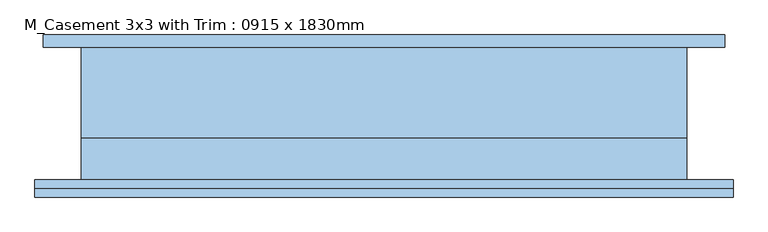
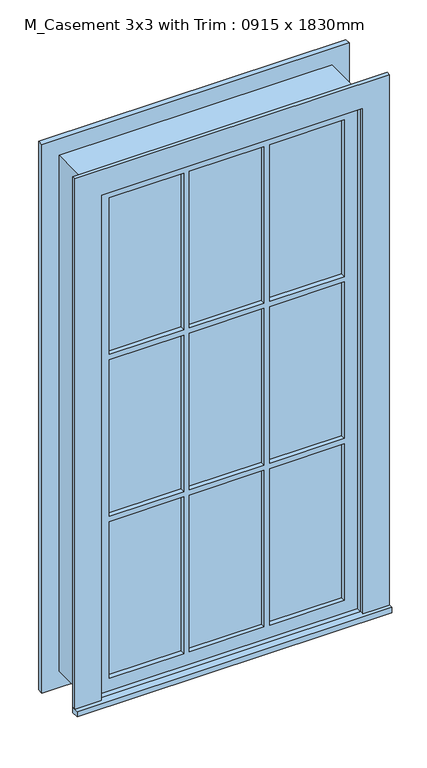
"""IFC4 building model written with IfcOpenShell, lengths in millimetres: window geometry, M_Casement 3x3 with Trim : 0915 x 1830mm."""

from ifc_helpers import new_model, si_unit, frame, origin, place, context, project, spatial, polyline, outline, extrude, source, transform, mapped, element, save


def m_casement_3x3_with_trim_0915_x_1830mm_588b5be8(model_context):
    return source(origin(), model_context, "Body", "SweptSolid", [
        extrude(outline(polyline([(-527.45, -125.7), (-527.45, -100.0), (527.45, -100.0), (527.45, -125.7), (-527.45, -125.7)])), frame((0.0, 0.0, 305.0), z_axis=(0.0, 0.0, 1.0), x_axis=(1.0, 0.0, 0.0)), (0.0, 0.0, 1.0), 19.05),
        extrude(outline(polyline([(2115.95, -438.45), (2115.95, 438.45), (324.05, 438.45), (324.05, 527.45), (2204.95, 527.45), (2204.95, -527.45), (324.05, -527.45), (324.05, -438.45), (2115.95, -438.45)])), frame((0.0, -113.0, 0.0), z_axis=(0.0, 1.0, 0.0), x_axis=(0.0, 0.0, 1.0)), (0.0, 0.0, 1.0), 13.0),
        extrude(outline(polyline([(144.0333333, -65.125), (144.0333333, -52.425), (394.0, -52.425), (394.0, -65.125), (144.0333333, -65.125)])), frame((0.0, 0.0, 1516.5333333), z_axis=(0.0, 0.0, 1.0), x_axis=(1.0, 0.0, 0.0)), (0.0, 0.0, 1.0), 554.9666667),
        extrude(outline(polyline([(-124.9833333, -65.125), (-124.9833333, -52.425), (124.9833333, -52.425), (124.9833333, -65.125), (-124.9833333, -65.125)])), frame((0.0, 0.0, 1516.5333333), z_axis=(0.0, 0.0, 1.0), x_axis=(1.0, 0.0, 0.0)), (0.0, 0.0, 1.0), 554.9666667),
        extrude(outline(polyline([(-394.0, -65.125), (-394.0, -52.425), (-144.0333333, -52.425), (-144.0333333, -65.125), (-394.0, -65.125)])), frame((0.0, 0.0, 1516.5333333), z_axis=(0.0, 0.0, 1.0), x_axis=(1.0, 0.0, 0.0)), (0.0, 0.0, 1.0), 554.9666667),
        extrude(outline(polyline([(-394.0, -65.125), (-394.0, -52.425), (-144.0333333, -52.425), (-144.0333333, -65.125), (-394.0, -65.125)])), frame((0.0, 0.0, 942.5166667), z_axis=(0.0, 0.0, 1.0), x_axis=(1.0, 0.0, 0.0)), (0.0, 0.0, 1.0), 554.9666667),
        extrude(outline(polyline([(-124.9833333, -65.125), (-124.9833333, -52.425), (124.9833333, -52.425), (124.9833333, -65.125), (-124.9833333, -65.125)])), frame((0.0, 0.0, 942.5166667), z_axis=(0.0, 0.0, 1.0), x_axis=(1.0, 0.0, 0.0)), (0.0, 0.0, 1.0), 554.9666667),
        extrude(outline(polyline([(144.0333333, -65.125), (144.0333333, -52.425), (394.0, -52.425), (394.0, -65.125), (144.0333333, -65.125)])), frame((0.0, 0.0, 942.5166667), z_axis=(0.0, 0.0, 1.0), x_axis=(1.0, 0.0, 0.0)), (0.0, 0.0, 1.0), 554.9666667),
        extrude(outline(polyline([(144.0333333, -65.125), (144.0333333, -52.425), (394.0, -52.425), (394.0, -65.125), (144.0333333, -65.125)])), frame((0.0, 0.0, 368.5), z_axis=(0.0, 0.0, 1.0), x_axis=(1.0, 0.0, 0.0)), (0.0, 0.0, 1.0), 554.9666667),
        extrude(outline(polyline([(-124.9833333, -65.125), (-124.9833333, -52.425), (124.9833333, -52.425), (124.9833333, -65.125), (-124.9833333, -65.125)])), frame((0.0, 0.0, 368.5), z_axis=(0.0, 0.0, 1.0), x_axis=(1.0, 0.0, 0.0)), (0.0, 0.0, 1.0), 554.9666667),
        extrude(outline(polyline([(-394.0, -65.125), (-394.0, -52.425), (-144.0333333, -52.425), (-144.0333333, -65.125), (-394.0, -65.125)])), frame((0.0, 0.0, 368.5), z_axis=(0.0, 0.0, 1.0), x_axis=(1.0, 0.0, 0.0)), (0.0, 0.0, 1.0), 554.9666667),
        extrude(outline(polyline([(2192.25, 514.75), (2192.25, -514.75), (247.75, -514.75), (247.75, 514.75), (2192.25, 514.75)]), holes=[polyline([(2103.25, 425.75), (336.75, 425.75), (336.75, -425.75), (2103.25, -425.75), (2103.25, 425.75)])]), frame((0.0, 100.0, 0.0), z_axis=(0.0, 1.0, 0.0), x_axis=(0.0, 0.0, 1.0)), (0.0, 0.0, 1.0), 19.0),
        extrude(outline(polyline([(2115.95, -438.45), (324.05, -438.45), (324.05, 438.45), (2115.95, 438.45), (2115.95, -438.45)]), holes=[polyline([(2071.5, -144.0333333), (1516.5333333, -144.0333333), (1516.5333333, -394.0), (2071.5, -394.0), (2071.5, -144.0333333)]), polyline([(1497.4833333, -144.0333333), (942.5166667, -144.0333333), (942.5166667, -394.0), (1497.4833333, -394.0), (1497.4833333, -144.0333333)]), polyline([(923.4666667, -144.0333333), (368.5, -144.0333333), (368.5, -394.0), (923.4666667, -394.0), (923.4666667, -144.0333333)]), polyline([(2071.5, 124.9833333), (1516.5333333, 124.9833333), (1516.5333333, -124.9833333), (2071.5, -124.9833333), (2071.5, 124.9833333)]), polyline([(1497.4833333, 124.9833333), (942.5166667, 124.9833333), (942.5166667, -124.9833333), (1497.4833333, -124.9833333), (1497.4833333, 124.9833333)]), polyline([(923.4666667, 124.9833333), (368.5, 124.9833333), (368.5, -124.9833333), (923.4666667, -124.9833333), (923.4666667, 124.9833333)]), polyline([(2071.5, 394.0), (1516.5333333, 394.0), (1516.5333333, 144.0333333), (2071.5, 144.0333333), (2071.5, 394.0)]), polyline([(1497.4833333, 394.0), (942.5166667, 394.0), (942.5166667, 144.0333333), (1497.4833333, 144.0333333), (1497.4833333, 394.0)]), polyline([(923.4666667, 394.0), (368.5, 394.0), (368.5, 144.0333333), (923.4666667, 144.0333333), (923.4666667, 394.0)])]), frame((0.0, -81.0, 0.0), z_axis=(0.0, 1.0, 0.0), x_axis=(0.0, 0.0, 1.0)), (0.0, 0.0, 1.0), 44.45),
        extrude(outline(polyline([(2135.0, -457.5), (305.0, -457.5), (305.0, 457.5), (2135.0, 457.5), (2135.0, -457.5)]), holes=[polyline([(2103.25, -425.75), (2103.25, 425.75), (336.75, 425.75), (336.75, -425.75), (2103.25, -425.75)])]), frame((0.0, -36.55, 0.0), z_axis=(0.0, 1.0, 0.0), x_axis=(0.0, 0.0, 1.0)), (0.0, 0.0, 1.0), 136.55),
        extrude(outline(polyline([(2135.0, 457.5), (2135.0, -457.5), (305.0, -457.5), (305.0, 457.5), (2135.0, 457.5)]), holes=[polyline([(2115.95, 438.45), (324.05, 438.45), (324.05, -438.45), (2115.95, -438.45), (2115.95, 438.45)])]), frame((0.0, -100.0, 0.0), z_axis=(0.0, 1.0, 0.0), x_axis=(0.0, 0.0, 1.0)), (0.0, 0.0, 1.0), 63.45),
    ])


if __name__ == "__main__":
    model = new_model("IFC4")
    model_context = context("Model", 3, world=origin())
    ifc_project = project(units=[si_unit("LENGTHUNIT", "METRE", prefix="MILLI")], contexts=[model_context])
    site = spatial("IfcSite", under=ifc_project)
    building = spatial("IfcBuilding", under=site)
    placement = place(None, origin())
    m_casement_3x3_with_trim_0915_x_1830mm_shape = m_casement_3x3_with_trim_0915_x_1830mm_588b5be8(model_context)
    element("IfcWindow", 1, ObjectType="M_Casement 3x3 with Trim : 0915 x 1830mm", at=placement, inside=building, context=model_context, shape_type="MappedRepresentation", body=[
        mapped(m_casement_3x3_with_trim_0915_x_1830mm_shape, transform((0.0, 0.0, 0.0), x_axis=(1.0, 0.0, 0.0), y_axis=(0.0, 1.0, 0.0), z_axis=(0.0, 0.0, 1.0))),
    ])
    save(model, "model.ifc")
